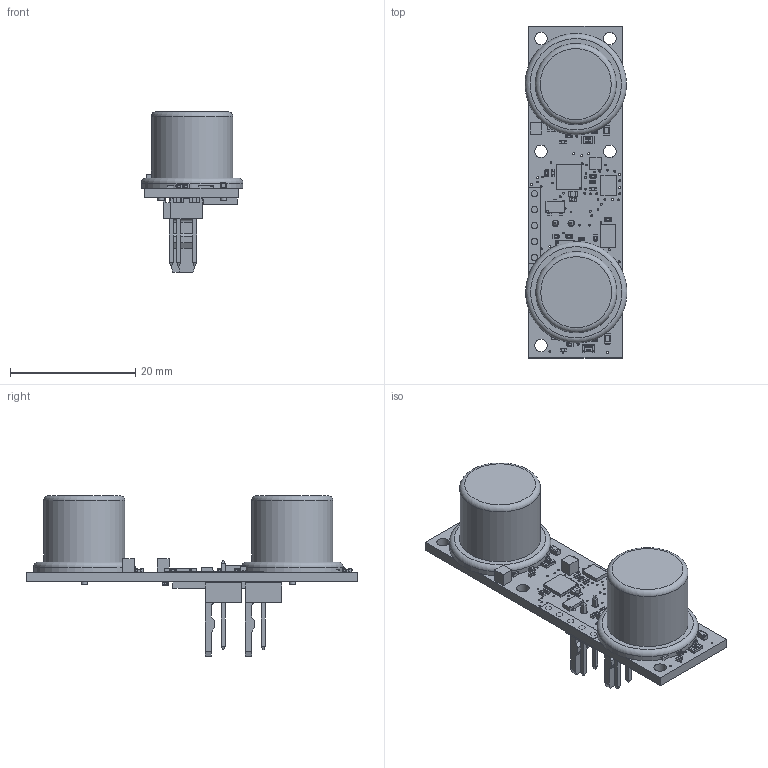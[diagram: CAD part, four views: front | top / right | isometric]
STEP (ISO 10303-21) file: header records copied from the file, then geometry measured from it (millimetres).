
FILE_DESCRIPTION(/* description */ (''),/* implementation_level */ '2;1');
FILE_NAME(/* name */ 'C:/Users/priba/Downloads/mrm-us2.step',/* time_stamp */ '2021-02-11T22:10:20+01:00',/* author */ (''),/* organization */ (''),/* preprocessor_version */ 'ST-DEVELOPER v18.1',/* originating_system */ 'Autodesk Translation Framework v9.7.1.1290',/* authorisation */ '');
FILE_SCHEMA (('AUTOMOTIVE_DESIGN { 1 0 10303 214 3 1 1 }'));
Length unit declared in the file: millimetre
Products named in the file (22): mrm-us2; Board; Packages; 1X01; 1X05_PINLESS; 255400PT160ROX; C0402; C0603; C0805; CHIPLED_0402; DFN-8-2X3; DIOC2514X60N; ELMOS_E52434A52C; EPSON_TSX-3225; HDRV2W64P254_2X1_508X580H1118; JST_SM04B-GHK-TB; QFN50P400X400X60-28N; R0402; R0603; R0805; SON65P300X300X90-9N; TOSHIBA_SSM3J332RLFT
Assembly tree (76 placements, depth 3):
  mrm-us2
    Board
    Packages
      1X01  x2
      1X05_PINLESS
      255400PT160ROX  x2
      C0402  x27
      C0603  x4
      C0805  x4
      CHIPLED_0402
      DFN-8-2X3
      DIOC2514X60N  x2
      ELMOS_E52434A52C  x2
      EPSON_TSX-3225
      HDRV2W64P254_2X1_508X580H1118  x2
      JST_SM04B-GHK-TB  x2
      QFN50P400X400X60-28N
      R0402  x9
      R0603  x7
      R0805  x4
      SON65P300X300X90-9N
      TOSHIBA_SSM3J332RLFT
Bounding box: 16.28 x 53 x 25.61 mm (x, y, z)
Volume: 5065.6 mm3; surface area: 5178 mm2
Topology: 117 solids, 117 shells, 4779 faces, 12589 edges, 7831 vertices
Faces by surface type: plane 2312, cylinder 1455, sphere 512, bspline 496, torus 4
Full cylindrical faces by diameter (mm): 0.3 x84, 1 x4, 1.016 x7, 1.05 x4, 1.2 x4, 2 x5, 12.96 x2, 16.2 x2
Entity records: 49464 total; most frequent: CARTESIAN_POINT 11491, ORIENTED_EDGE 7654, DIRECTION 6892, EDGE_CURVE 3827, LINE 2582, VECTOR 2582, VERTEX_POINT 2453, AXIS2_PLACEMENT_3D 2155
